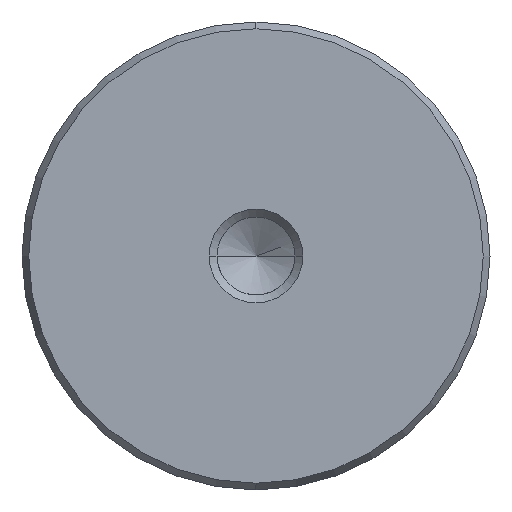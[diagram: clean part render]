
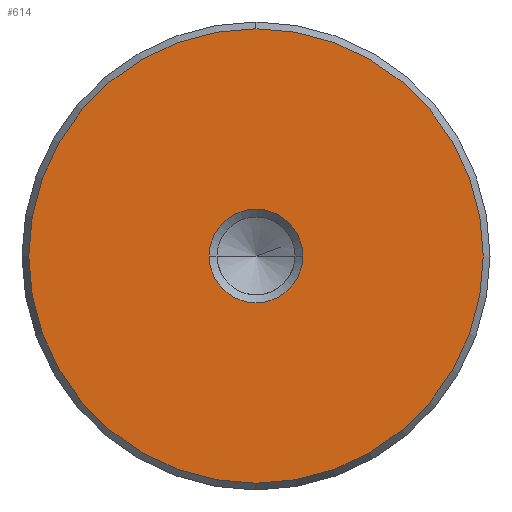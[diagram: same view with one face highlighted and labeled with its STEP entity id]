
A CAD part, left-side view. The second image highlights one B-rep face of the part: STEP entity #614.
In plain terms, the highlighted planar face has unit normal (-1, 0, 0).
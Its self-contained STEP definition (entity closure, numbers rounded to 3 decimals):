
#528=CARTESIAN_POINT('Vertex',(0.,0.,-19.423)) ;
#531=CARTESIAN_POINT('Axis2P3D Location',(0.,0.,0.)) ;
#535=CARTESIAN_POINT('Vertex',(0.,19.423,0.)) ;
#538=CARTESIAN_POINT('Axis2P3D Location',(0.,0.,0.)) ;
#542=CARTESIAN_POINT('Vertex',(0.,0.,19.423)) ;
#564=CARTESIAN_POINT('Axis2P3D Location',(0.,0.,0.)) ;
#568=CARTESIAN_POINT('Vertex',(0.,-19.423,0.)) ;
#571=CARTESIAN_POINT('Axis2P3D Location',(0.,0.,0.)) ;
#585=CARTESIAN_POINT('Axis2P3D Location',(0.,0.,0.)) ;
#596=CARTESIAN_POINT('Axis2P3D Location',(0.,0.,0.)) ;
#600=CARTESIAN_POINT('Vertex',(0.,4.,0.)) ;
#602=CARTESIAN_POINT('Vertex',(0.,-4.,0.)) ;
#605=CARTESIAN_POINT('Axis2P3D Location',(0.,0.,0.)) ;
#532=DIRECTION('Axis2P3D Direction',(1.,0.,-0.)) ;
#539=DIRECTION('Axis2P3D Direction',(1.,0.,-0.)) ;
#565=DIRECTION('Axis2P3D Direction',(1.,0.,-0.)) ;
#572=DIRECTION('Axis2P3D Direction',(1.,0.,-0.)) ;
#586=DIRECTION('Axis2P3D Direction',(1.,0.,-0.)) ;
#587=DIRECTION('Axis2P3D XDirection',(-0.,0.,-1.)) ;
#597=DIRECTION('Axis2P3D Direction',(1.,0.,-0.)) ;
#606=DIRECTION('Axis2P3D Direction',(1.,0.,-0.)) ;
#533=AXIS2_PLACEMENT_3D('Circle Axis2P3D',#531,#532,$) ;
#540=AXIS2_PLACEMENT_3D('Circle Axis2P3D',#538,#539,$) ;
#566=AXIS2_PLACEMENT_3D('Circle Axis2P3D',#564,#565,$) ;
#573=AXIS2_PLACEMENT_3D('Circle Axis2P3D',#571,#572,$) ;
#588=AXIS2_PLACEMENT_3D('Plane Axis2P3D',#585,#586,#587) ;
#598=AXIS2_PLACEMENT_3D('Circle Axis2P3D',#596,#597,$) ;
#607=AXIS2_PLACEMENT_3D('Circle Axis2P3D',#605,#606,$) ;
#591=ORIENTED_EDGE('',*,*,#537,.F.) ;
#592=ORIENTED_EDGE('',*,*,#575,.F.) ;
#593=ORIENTED_EDGE('',*,*,#570,.F.) ;
#594=ORIENTED_EDGE('',*,*,#544,.F.) ;
#611=ORIENTED_EDGE('',*,*,#604,.T.) ;
#612=ORIENTED_EDGE('',*,*,#609,.T.) ;
#613=FACE_BOUND('',#610,.T.) ;
#614=ADVANCED_FACE('720-40x250',(#595,#613),#589,.F.) ;
#534=CIRCLE('generated circle',#533,19.423) ;
#541=CIRCLE('generated circle',#540,19.423) ;
#567=CIRCLE('generated circle',#566,19.423) ;
#574=CIRCLE('generated circle',#573,19.423) ;
#599=CIRCLE('generated circle',#598,4.) ;
#608=CIRCLE('generated circle',#607,4.) ;
#537=EDGE_CURVE('',#529,#536,#534,.T.) ;
#544=EDGE_CURVE('',#536,#543,#541,.T.) ;
#570=EDGE_CURVE('',#543,#569,#567,.T.) ;
#575=EDGE_CURVE('',#569,#529,#574,.T.) ;
#604=EDGE_CURVE('',#601,#603,#599,.T.) ;
#609=EDGE_CURVE('',#603,#601,#608,.T.) ;
#590=EDGE_LOOP('',(#591,#592,#593,#594)) ;
#610=EDGE_LOOP('',(#611,#612)) ;
#595=FACE_OUTER_BOUND('',#590,.T.) ;
#589=PLANE('Plane',#588) ;
#529=VERTEX_POINT('',#528) ;
#536=VERTEX_POINT('',#535) ;
#543=VERTEX_POINT('',#542) ;
#569=VERTEX_POINT('',#568) ;
#601=VERTEX_POINT('',#600) ;
#603=VERTEX_POINT('',#602) ;
